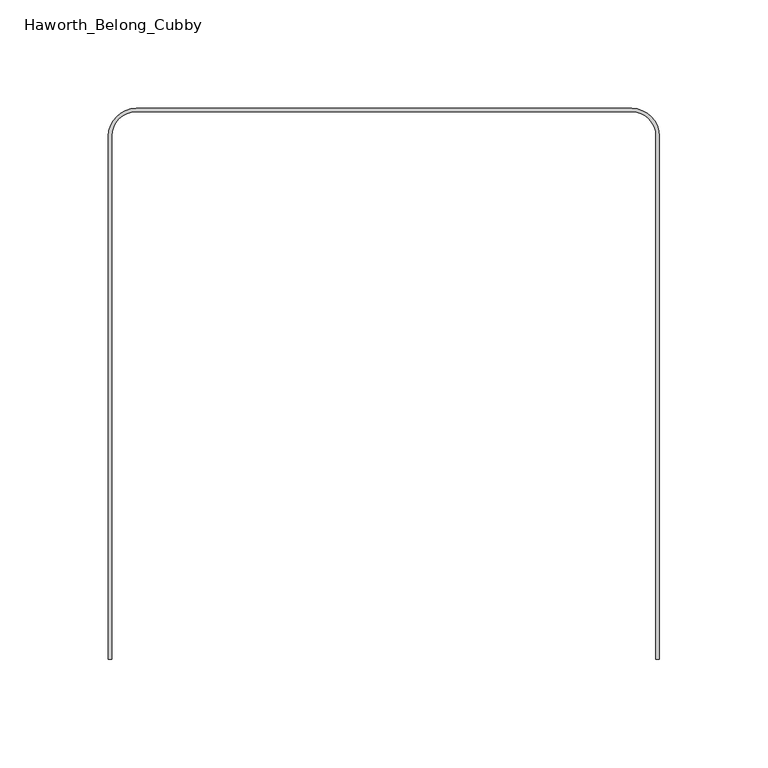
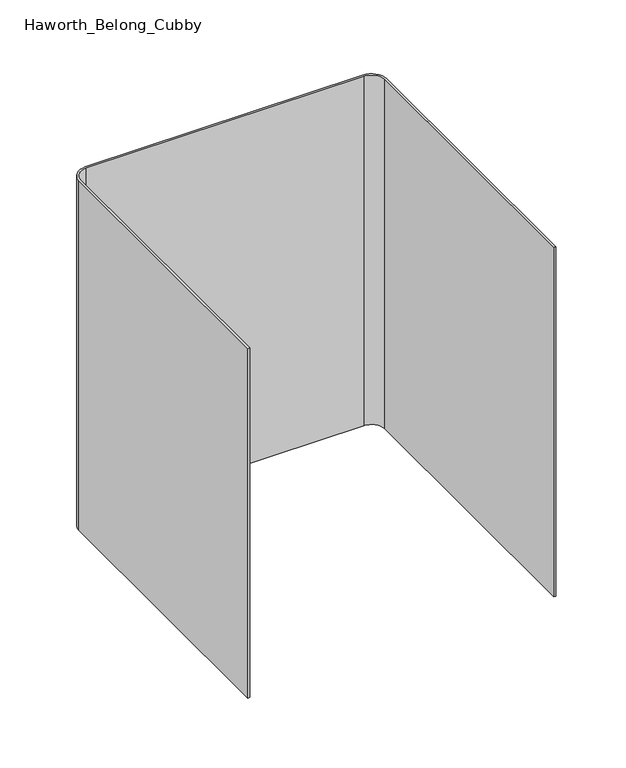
"""IFC4 building model written with IfcOpenShell, lengths in millimetres: furniture geometry, Haworth_Belong_Cubby : 12h - No Slots."""

from ifc_helpers import new_model, si_unit, point, frame, frame_2d, origin, place, context, project, spatial, polyline, circle_curve, trimmed, segment, composite_curve, outline, extrude, source, transform, mapped, element, save


def haworth_belong_cubby_de75faa0(model_context):
    return source(origin(), model_context, "Body", "SweptSolid", [
        extrude(outline(composite_curve([segment(polyline([(-127.0, -253.20625), (-127.0, -11.90625)]), True, "CONTINUOUS"), segment(trimmed(circle_curve(frame_2d((-114.3, -11.90625)), 12.7), [point((-127.0, -11.90625))], [point((-114.3, 0.79375))], False, "CARTESIAN"), True, "CONTINUOUS"), segment(polyline([(-114.3, 0.79375), (114.3, 0.79375)]), True, "CONTINUOUS"), segment(trimmed(circle_curve(frame_2d((114.3, -11.90625)), 12.7), [point((114.3, 0.79375))], [point((127.0, -11.90625))], False, "CARTESIAN"), True, "CONTINUOUS"), segment(polyline([(127.0, -11.90625), (127.0, -253.20625), (125.4125, -253.20625), (125.4125, -11.90625)]), True, "CONTINUOUS"), segment(trimmed(circle_curve(frame_2d((114.3, -11.90625)), 11.1125), [point((125.4125, -11.90625))], [point((114.3, -0.79375))], True, "CARTESIAN"), True, "CONTINUOUS"), segment(polyline([(114.3, -0.79375), (-114.3, -0.79375)]), True, "CONTINUOUS"), segment(trimmed(circle_curve(frame_2d((-114.3, -11.90625)), 11.1125), [point((-114.3, -0.79375))], [point((-125.4125, -11.90625))], True, "CARTESIAN"), True, "CONTINUOUS"), segment(polyline([(-125.4125, -11.90625), (-125.4125, -253.20625), (-127.0, -253.20625)]), True, "CONTINUOUS")], self_intersect=False)), frame((0.0, 0.0, 609.6), z_axis=(0.0, 0.0, 1.0), x_axis=(1.0, 0.0, 0.0)), (0.0, 0.0, 1.0), 304.8),
    ])


if __name__ == "__main__":
    model = new_model("IFC4")
    model_context = context("Model", 3, world=origin())
    ifc_project = project(units=[si_unit("LENGTHUNIT", "METRE", prefix="MILLI")], contexts=[model_context])
    site = spatial("IfcSite", under=ifc_project)
    building = spatial("IfcBuilding", under=site)
    placement = place(None, origin())
    haworth_belong_cubby_shape = haworth_belong_cubby_de75faa0(model_context)
    element("IfcFurniture", 1, ObjectType="Haworth_Belong_Cubby : 12h - No Slots", at=placement, inside=building, context=model_context, shape_type="MappedRepresentation", body=[
        mapped(haworth_belong_cubby_shape, transform((0.0, 0.0, 0.0), x_axis=(1.0, 0.0, 0.0), y_axis=(0.0, 1.0, 0.0), z_axis=(0.0, 0.0, 1.0))),
    ])
    save(model, "model.ifc")
